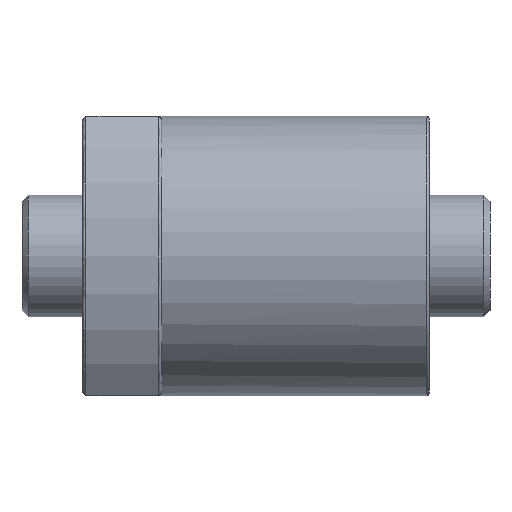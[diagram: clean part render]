
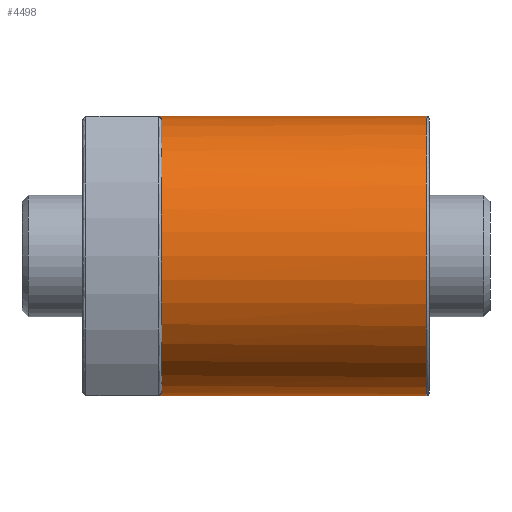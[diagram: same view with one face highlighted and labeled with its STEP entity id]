
A CAD part, front view. The second image highlights one B-rep face of the part: STEP entity #4498.
In plain terms, the highlighted cylindrical face has radius 23 mm (diameter 46 mm), a partial arc.
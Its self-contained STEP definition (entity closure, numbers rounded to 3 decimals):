
#142 = VECTOR ( 'NONE', #6001, 1000. ) ;
#184 = ORIENTED_EDGE ( 'NONE', *, *, #4121, .T. ) ;
#202 = CYLINDRICAL_SURFACE ( 'NONE', #4752, 23. ) ;
#293 = CARTESIAN_POINT ( 'NONE',  ( 57., 0., -23. ) ) ;
#390 = VERTEX_POINT ( 'NONE', #2731 ) ;
#446 = DIRECTION ( 'NONE',  ( -1., 0., 0. ) ) ;
#590 = CIRCLE ( 'NONE', #5152, 23. ) ;
#652 = DIRECTION ( 'NONE',  ( -1., 0., 0. ) ) ;
#748 = ORIENTED_EDGE ( 'NONE', *, *, #5146, .T. ) ;
#824 = VERTEX_POINT ( 'NONE', #5489 ) ;
#951 = CARTESIAN_POINT ( 'NONE',  ( 57., 0., 0. ) ) ;
#972 = CARTESIAN_POINT ( 'NONE',  ( 12.667, -3.2, -22.833 ) ) ;
#1510 = FACE_OUTER_BOUND ( 'NONE', #4129, .T. ) ;
#1804 = ORIENTED_EDGE ( 'NONE', *, *, #8207, .T. ) ;
#1939 = EDGE_CURVE ( 'NONE', #2172, #3802, #3129, .T. ) ;
#2075 = CARTESIAN_POINT ( 'NONE',  ( 13., -4.77, -22.5 ) ) ;
#2172 = VERTEX_POINT ( 'NONE', #2075 ) ;
#2295 = CARTESIAN_POINT ( 'NONE',  ( 12.5, -1.604, 23. ) ) ;
#2339 = CARTESIAN_POINT ( 'NONE',  ( 13., 0., 0. ) ) ;
#2384 = CARTESIAN_POINT ( 'NONE',  ( 13., -4.77, -22.5 ) ) ;
#2603 = CARTESIAN_POINT ( 'NONE',  ( 12.5, 0., -23. ) ) ;
#2731 = CARTESIAN_POINT ( 'NONE',  ( 56.5, 0., -23. ) ) ;
#2733 = EDGE_CURVE ( 'NONE', #390, #3802, #5657, .T. ) ;
#2946 = CARTESIAN_POINT ( 'NONE',  ( 12.667, -3.2, 22.833 ) ) ;
#3026 = ORIENTED_EDGE ( 'NONE', *, *, #1939, .T. ) ;
#3129 =( BOUNDED_CURVE ( )  B_SPLINE_CURVE ( 3, ( #2384, #972, #6113, #4217 ),
 .UNSPECIFIED., .F., .F. ) 
 B_SPLINE_CURVE_WITH_KNOTS ( ( 4, 4 ),
 ( 6.074, 6.283 ),
 .UNSPECIFIED. ) 
 CURVE ( )  GEOMETRIC_REPRESENTATION_ITEM ( )  RATIONAL_B_SPLINE_CURVE ( ( 1., 0.996, 0.996, 1. ) ) 
 REPRESENTATION_ITEM ( '' )  );
#3457 = CIRCLE ( 'NONE', #6345, 23. ) ;
#3582 = DIRECTION ( 'NONE',  ( 0., 0., 1. ) ) ;
#3802 = VERTEX_POINT ( 'NONE', #2603 ) ;
#4121 = EDGE_CURVE ( 'NONE', #824, #2172, #3457, .T. ) ;
#4129 = EDGE_LOOP ( 'NONE', ( #6509, #1804, #748, #4444, #184, #3026 ) ) ;
#4217 = CARTESIAN_POINT ( 'NONE',  ( 12.5, 0., -23. ) ) ;
#4444 = ORIENTED_EDGE ( 'NONE', *, *, #6042, .T. ) ;
#4482 = CARTESIAN_POINT ( 'NONE',  ( 56.5, 0., 0. ) ) ;
#4498 = ADVANCED_FACE ( 'NONE', ( #1510 ), #202, .T. ) ;
#4614 = VERTEX_POINT ( 'NONE', #4961 ) ;
#4713 = DIRECTION ( 'NONE',  ( 0., 0., 1. ) ) ;
#4752 = AXIS2_PLACEMENT_3D ( 'NONE', #951, #5343, #4713 ) ;
#4961 = CARTESIAN_POINT ( 'NONE',  ( 12.5, 0., 23. ) ) ;
#5045 = CARTESIAN_POINT ( 'NONE',  ( 56.5, 0., 23. ) ) ;
#5146 = EDGE_CURVE ( 'NONE', #6267, #4614, #7131, .T. ) ;
#5152 = AXIS2_PLACEMENT_3D ( 'NONE', #4482, #652, #5215 ) ;
#5215 = DIRECTION ( 'NONE',  ( 0., 0., 1. ) ) ;
#5343 = DIRECTION ( 'NONE',  ( -1., 0., 0. ) ) ;
#5485 = DIRECTION ( 'NONE',  ( 1., 0., 0. ) ) ;
#5489 = CARTESIAN_POINT ( 'NONE',  ( 13., -4.77, 22.5 ) ) ;
#5610 = VECTOR ( 'NONE', #446, 1000. ) ;
#5657 = LINE ( 'NONE', #293, #142 ) ;
#6001 = DIRECTION ( 'NONE',  ( -1., 0., 0. ) ) ;
#6042 = EDGE_CURVE ( 'NONE', #4614, #824, #6559, .T. ) ;
#6086 = CARTESIAN_POINT ( 'NONE',  ( 12.5, 0., 23. ) ) ;
#6113 = CARTESIAN_POINT ( 'NONE',  ( 12.5, -1.604, -23. ) ) ;
#6138 = CARTESIAN_POINT ( 'NONE',  ( 13., -4.77, 22.5 ) ) ;
#6267 = VERTEX_POINT ( 'NONE', #5045 ) ;
#6345 = AXIS2_PLACEMENT_3D ( 'NONE', #2339, #5485, #3582 ) ;
#6509 = ORIENTED_EDGE ( 'NONE', *, *, #2733, .F. ) ;
#6559 =( BOUNDED_CURVE ( )  B_SPLINE_CURVE ( 3, ( #6086, #2295, #2946, #6138 ),
 .UNSPECIFIED., .F., .F. ) 
 B_SPLINE_CURVE_WITH_KNOTS ( ( 4, 4 ),
 ( 0., 0.209 ),
 .UNSPECIFIED. ) 
 CURVE ( )  GEOMETRIC_REPRESENTATION_ITEM ( )  RATIONAL_B_SPLINE_CURVE ( ( 1., 0.996, 0.996, 1. ) ) 
 REPRESENTATION_ITEM ( '' )  );
#7131 = LINE ( 'NONE', #7443, #5610 ) ;
#7443 = CARTESIAN_POINT ( 'NONE',  ( 57., 0., 23. ) ) ;
#8207 = EDGE_CURVE ( 'NONE', #390, #6267, #590, .T. ) ;
